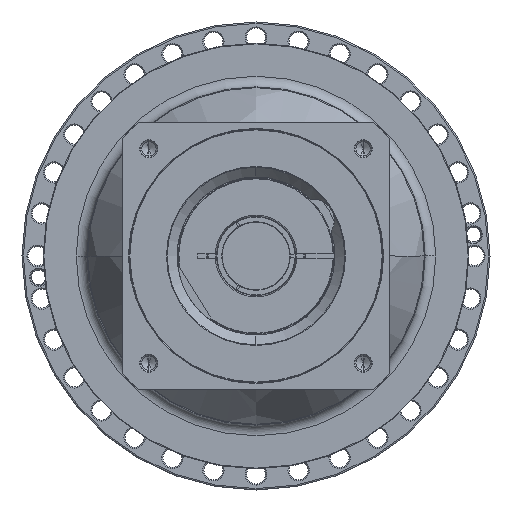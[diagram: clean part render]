
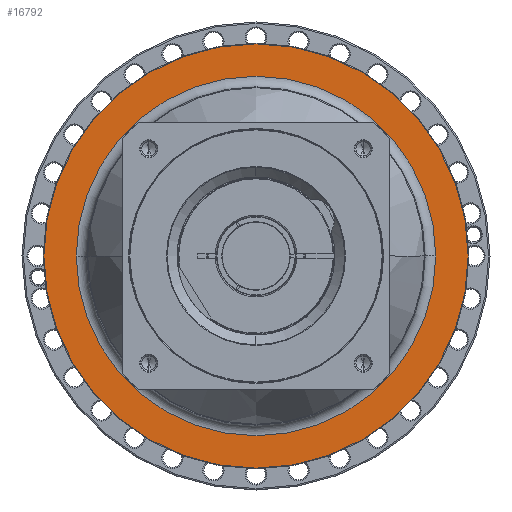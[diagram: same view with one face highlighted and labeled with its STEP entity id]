
A CAD part, left-side view. The second image highlights one B-rep face of the part: STEP entity #16792.
In plain terms, the highlighted planar face has unit normal (-1, 0, 0) as drawn and (1, 0, 0) by its records, which use the part's own axes.
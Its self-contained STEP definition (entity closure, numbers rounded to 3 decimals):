
#16305=CARTESIAN_POINT('',(-62.,0.,0.));
#16306=DIRECTION('',(1.,0.,0.));
#16307=DIRECTION('',(0.,1.,0.));
#16308=AXIS2_PLACEMENT_3D('',#16305,#16306,#16307);
#16310=CARTESIAN_POINT('',(-62.,0.,0.));
#16311=DIRECTION('',(1.,0.,0.));
#16312=DIRECTION('',(0.,-1.,0.));
#16313=AXIS2_PLACEMENT_3D('',#16310,#16311,#16312);
#16315=CARTESIAN_POINT('',(-62.,0.,0.));
#16316=DIRECTION('',(-1.,0.,0.));
#16317=DIRECTION('',(0.,-1.,0.));
#16318=AXIS2_PLACEMENT_3D('',#16315,#16316,#16317);
#16320=CARTESIAN_POINT('',(-62.,0.,0.));
#16321=DIRECTION('',(-1.,0.,0.));
#16322=DIRECTION('',(0.,1.,0.));
#16323=AXIS2_PLACEMENT_3D('',#16320,#16321,#16322);
#16445=CARTESIAN_POINT('',(-62.,-150.5,0.));
#16446=CARTESIAN_POINT('',(-62.,150.5,0.));
#16447=VERTEX_POINT('',#16445);
#16448=VERTEX_POINT('',#16446);
#16501=CARTESIAN_POINT('',(-62.,127.5,0.));
#16502=VERTEX_POINT('',#16501);
#16503=CARTESIAN_POINT('',(-62.,-127.5,0.));
#16504=VERTEX_POINT('',#16503);
#16777=CARTESIAN_POINT('',(-62.,0.,0.));
#16778=DIRECTION('',(1.,0.,0.));
#16779=DIRECTION('',(0.,-1.,0.));
#16780=AXIS2_PLACEMENT_3D('',#16777,#16778,#16779);
#16781=PLANE('',#16780);
#16783=ORIENTED_EDGE('',*,*,#16782,.T.);
#16785=ORIENTED_EDGE('',*,*,#16784,.T.);
#16786=EDGE_LOOP('',(#16783,#16785));
#16787=FACE_OUTER_BOUND('',#16786,.F.);
#16788=ORIENTED_EDGE('',*,*,#16771,.T.);
#16789=ORIENTED_EDGE('',*,*,#16757,.T.);
#16790=EDGE_LOOP('',(#16788,#16789));
#16791=FACE_BOUND('',#16790,.F.);
#16792=ADVANCED_FACE('',(#16787,#16791),#16781,.T.);
#16309=CIRCLE('',#16308,127.5);
#16314=CIRCLE('',#16313,127.5);
#16319=CIRCLE('',#16318,150.5);
#16324=CIRCLE('',#16323,150.5);
#16757=EDGE_CURVE('',#16504,#16502,#16314,.T.);
#16771=EDGE_CURVE('',#16502,#16504,#16309,.T.);
#16782=EDGE_CURVE('',#16447,#16448,#16319,.T.);
#16784=EDGE_CURVE('',#16448,#16447,#16324,.T.);
